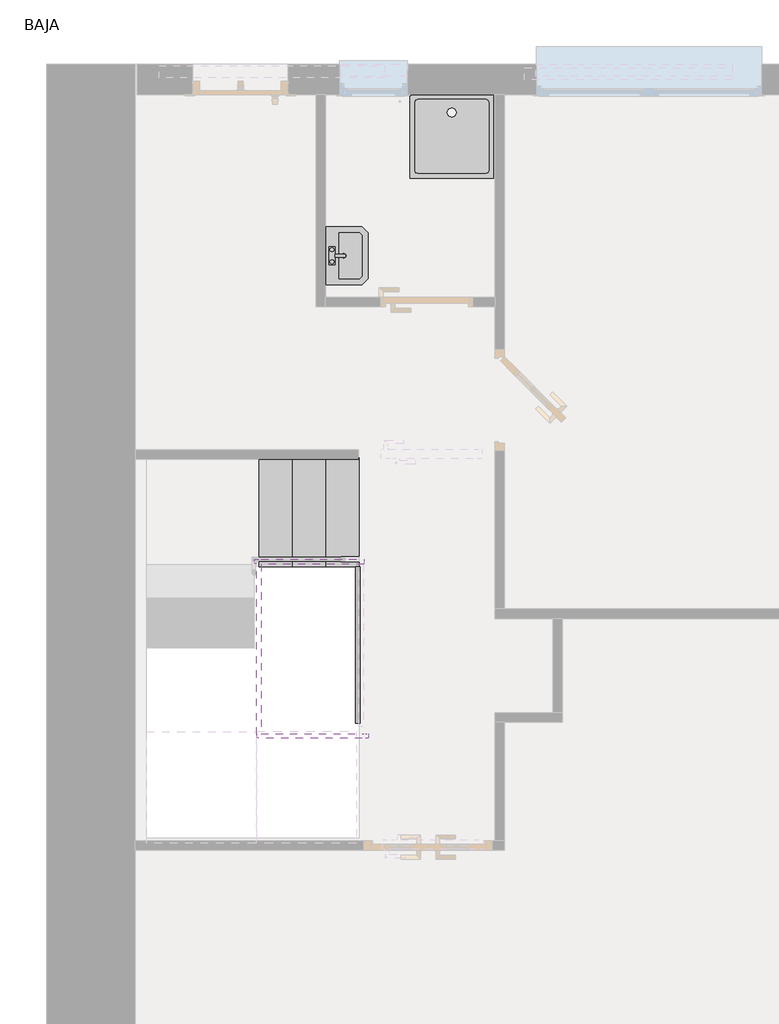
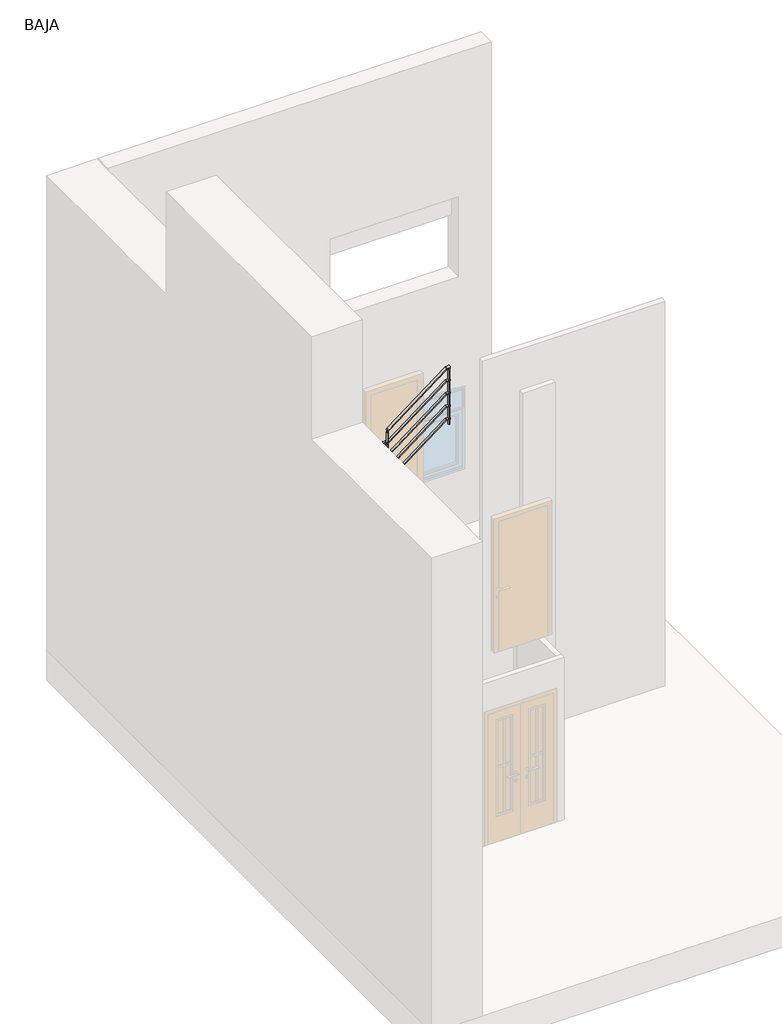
# One storey, part 3 of 3: 2 flow terminals, 2 railings, 1 stair flight.
"""IFC4 building model written with IfcOpenShell, lengths in millimetres."""

from ifc_helpers import new_model, si_unit, point, frame, frame_2d, origin, place, context, project, spatial, circle_curve, ellipse_curve, trimmed, segment, composite_curve, outline, extrude, faceted_brep, transform, mapped, element, save
from ifc_brep_helpers import plane_surface, cylinder_surface, advanced_brep
from components import flow_terminal_a7cef0fe, flow_terminal_700_x_700_mm_ef0395e3

model = new_model("IFC4")

# Units and contexts
model_context = context("Model", 3, world=origin())
ifc_project = project(units=[si_unit("LENGTHUNIT", "METRE", prefix="MILLI")], contexts=[model_context])

# Site, building, storey
site = spatial("IfcSite", under=ifc_project)
building = spatial("IfcBuilding", under=site)
storey = spatial("IfcBuildingStorey", under=building, Name="BAJA", Elevation=4000.0)

# Flow terminals
placement = place(None, origin())
flow_terminal_shape = flow_terminal_a7cef0fe(model_context)
element("IfcFlowTerminal", 1, ObjectType="M_Lavabo - Montado en muro : 485 mm x 355 mm - Privado", at=placement, inside=storey, context=model_context, shape_type="MappedRepresentation", body=[
    mapped(flow_terminal_shape, transform((-5363.6810782, -7863.2714291, 4865.0), x_axis=(0.0, 1.0, 0.0), y_axis=(0.0, 0.0, 1.0), z_axis=(1.0, 0.0, 0.0))),
])
flow_terminal_700_x_700_mm_shape = flow_terminal_700_x_700_mm_ef0395e3(model_context)
element("IfcFlowTerminal", 2, ObjectType="Cubeta de ducha - Desagüe axial : 700 x 700 mm", at=placement, inside=storey, context=model_context, shape_type="MappedRepresentation", body=[
    mapped(flow_terminal_700_x_700_mm_shape, transform((-4306.1811043, -6864.0945269, 4000.0), x_axis=(-1.0, 0.0, 0.0), y_axis=(0.0, -1.0, 0.0), z_axis=(0.0, 0.0, 1.0))),
])

# Railings
element("IfcRailing", 3, ObjectType="Tubería 900 mm", at=placement, inside=storey, context=model_context, shape_type="SweptSolid", body=[
    extrude(outline(composite_curve([segment(trimmed(circle_curve(frame_2d((4880.0, -5094.4380085)), 20.0), [point((4880.0, -5114.4380085))], [point((4880.0, -5074.4380085))], False, "CARTESIAN"), True, "CONTINUOUS"), segment(trimmed(circle_curve(frame_2d((4880.0, -5094.4380085)), 20.0), [point((4880.0, -5074.4380085))], [point((4880.0, -5114.4380085))], False, "CARTESIAN"), True, "CONTINUOUS")], self_intersect=False)), frame((0.0, -11778.334164, 0.0), z_axis=(0.0, 1.0, 0.0), x_axis=(0.0, 0.0, 1.0)), (0.0, 0.0, 1.0), 1312.5969331),
    extrude(outline(composite_curve([segment(trimmed(circle_curve(frame_2d((4685.0, -5094.4380085)), 15.0), [point((4685.0, -5079.4380085))], [point((4685.0, -5109.4380085))], False, "CARTESIAN"), True, "CONTINUOUS"), segment(trimmed(circle_curve(frame_2d((4685.0, -5094.4380085)), 15.0), [point((4685.0, -5109.4380085))], [point((4685.0, -5079.4380085))], False, "CARTESIAN"), True, "CONTINUOUS")], self_intersect=False)), frame((0.0, -11778.334164, 0.0), z_axis=(0.0, 1.0, 0.0), x_axis=(0.0, 0.0, 1.0)), (0.0, 0.0, 1.0), 1312.5969331),
    extrude(outline(composite_curve([segment(trimmed(circle_curve(frame_2d((4485.0, -5094.4380085)), 15.0), [point((4485.0, -5079.4380085))], [point((4485.0, -5109.4380085))], False, "CARTESIAN"), True, "CONTINUOUS"), segment(trimmed(circle_curve(frame_2d((4485.0, -5094.4380085)), 15.0), [point((4485.0, -5109.4380085))], [point((4485.0, -5079.4380085))], False, "CARTESIAN"), True, "CONTINUOUS")], self_intersect=False)), frame((0.0, -11778.334164, 0.0), z_axis=(0.0, 1.0, 0.0), x_axis=(0.0, 0.0, 1.0)), (0.0, 0.0, 1.0), 1312.5969331),
    extrude(outline(composite_curve([segment(trimmed(circle_curve(frame_2d((4285.0, -5094.4380085)), 15.0), [point((4285.0, -5079.4380085))], [point((4285.0, -5109.4380085))], False, "CARTESIAN"), True, "CONTINUOUS"), segment(trimmed(circle_curve(frame_2d((4285.0, -5094.4380085)), 15.0), [point((4285.0, -5109.4380085))], [point((4285.0, -5079.4380085))], False, "CARTESIAN"), True, "CONTINUOUS")], self_intersect=False)), frame((0.0, -11778.334164, 0.0), z_axis=(0.0, 1.0, 0.0), x_axis=(0.0, 0.0, 1.0)), (0.0, 0.0, 1.0), 1312.5969331),
    extrude(outline(composite_curve([segment(trimmed(circle_curve(frame_2d((4085.0, -5094.4380085)), 15.0), [point((4085.0, -5079.4380085))], [point((4085.0, -5109.4380085))], False, "CARTESIAN"), True, "CONTINUOUS"), segment(trimmed(circle_curve(frame_2d((4085.0, -5094.4380085)), 15.0), [point((4085.0, -5109.4380085))], [point((4085.0, -5079.4380085))], False, "CARTESIAN"), True, "CONTINUOUS")], self_intersect=False)), frame((0.0, -11778.334164, 0.0), z_axis=(0.0, 1.0, 0.0), x_axis=(0.0, 0.0, 1.0)), (0.0, 0.0, 1.0), 1312.5969331),
    extrude(outline(composite_curve([segment(trimmed(circle_curve(frame_2d((-5094.4380085, -11465.7372309)), 12.5), [point((-5081.9380085, -11465.7372309))], [point((-5106.9380085, -11465.7372309))], False, "CARTESIAN"), True, "CONTINUOUS"), segment(trimmed(circle_curve(frame_2d((-5094.4380085, -11465.7372309)), 12.5), [point((-5106.9380085, -11465.7372309))], [point((-5081.9380085, -11465.7372309))], False, "CARTESIAN"), True, "CONTINUOUS")], self_intersect=False)), frame((0.0, 0.0, 4000.0), z_axis=(0.0, 0.0, 1.0), x_axis=(1.0, 0.0, 0.0)), (0.0, 0.0, 1.0), 860.0),
    extrude(outline(composite_curve([segment(trimmed(circle_curve(frame_2d((-5094.4380085, -11765.834164)), 12.5), [point((-5081.9380085, -11765.834164))], [point((-5106.9380085, -11765.834164))], False, "CARTESIAN"), True, "CONTINUOUS"), segment(trimmed(circle_curve(frame_2d((-5094.4380085, -11765.834164)), 12.5), [point((-5106.9380085, -11765.834164))], [point((-5081.9380085, -11765.834164))], False, "CARTESIAN"), True, "CONTINUOUS")], self_intersect=False)), frame((0.0, 0.0, 4000.0), z_axis=(0.0, 0.0, 1.0), x_axis=(1.0, 0.0, 0.0)), (0.0, 0.0, 1.0), 860.0),
    extrude(outline(composite_curve([segment(trimmed(circle_curve(frame_2d((-5094.4380085, -10478.2372309)), 12.5), [point((-5081.9380085, -10478.2372309))], [point((-5106.9380085, -10478.2372309))], False, "CARTESIAN"), True, "CONTINUOUS"), segment(trimmed(circle_curve(frame_2d((-5094.4380085, -10478.2372309)), 12.5), [point((-5106.9380085, -10478.2372309))], [point((-5081.9380085, -10478.2372309))], False, "CARTESIAN"), True, "CONTINUOUS")], self_intersect=False)), frame((0.0, 0.0, 4000.0), z_axis=(0.0, 0.0, 1.0), x_axis=(1.0, 0.0, 0.0)), (0.0, 0.0, 1.0), 860.0),
])
element("IfcRailing", 4, ObjectType="Tubería 900 mm", at=placement, inside=storey, context=model_context, shape_type="SolidModel", body=[
    advanced_brep(
    [(-5042.9130424, -10404.2358592, 8087.9516089), (-5042.9130424, -10444.2358592, 8087.9516089), (-5902.4217865, -10404.2358592, 8745.738913), (-5902.4217865, -10444.2358592, 8745.738913), (-5944.8950445, -10404.2358592, 8943.5301894), (-5940.7116824, -10444.2358592, 8924.0489309)],
    [
        (0, 1, ellipse_curve(frame((-5042.9130424, -10424.2358592, 8087.9516089), z_axis=(1.0, 0.0, 0.0), x_axis=(0.0, 0.0, -1.0)), 25.1848642, 20.0)),
        (1, 0, ellipse_curve(frame((-5042.9130424, -10424.2358592, 8087.9516089), z_axis=(1.0, 0.0, 0.0), x_axis=(0.0, 0.0, -1.0)), 25.1848642, 20.0)),
        (0, 2),
        (2, 3, ellipse_curve(frame((-5902.4217865, -10424.2358592, 8745.738913), z_axis=(0.5350342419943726, 0.0, -0.8448303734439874), x_axis=(0.8448303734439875, 0.0, 0.5350342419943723)), 21.3144193, 20.0)),
        (3, 1),
        (3, 2, ellipse_curve(frame((-5902.4217865, -10424.2358592, 8745.738913), z_axis=(0.5350342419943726, 0.0, -0.8448303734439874), x_axis=(0.8448303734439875, 0.0, 0.5350342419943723)), 21.3144193, 20.0)),
        (4, 5, ellipse_curve(frame((-5942.8033634, -10424.2358592, 8933.7895602), z_axis=(-0.11757965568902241, -0.4447370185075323, 0.8879099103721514), x_axis=(0.23305102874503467, -0.8814996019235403, -0.4106649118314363)), 22.4012828, 20.0)),
        (5, 4, ellipse_curve(frame((-5942.8033634, -10424.2358592, 8933.7895602), z_axis=(-0.11757965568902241, -0.4447370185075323, 0.8879099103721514), x_axis=(0.23305102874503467, -0.8814996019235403, -0.4106649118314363)), 22.4012828, 20.0)),
        (2, 4),
        (5, 3),
    ],
    [
        plane_surface(frame((-5042.9130424, -10424.2358592, 8113.1364731), z_axis=(1.0, 0.0, 0.0), x_axis=(0.0, -1.0, 0.0))),
        cylinder_surface(frame((-5055.0680593, -10424.2358592, 8097.2539177), z_axis=(0.7941277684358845, 0.0, -0.6077508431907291), x_axis=(0.0, -1.0, 0.0)), 20.0),
        plane_surface(frame((-5922.9130424, -10424.2358592, 8936.4234953), z_axis=(-0.11757965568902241, -0.4447370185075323, 0.8879099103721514), x_axis=(0.9930634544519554, -0.052657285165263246, 0.10512937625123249))),
        cylinder_surface(frame((-5903.968953, -10424.2358592, 8752.9438242), z_axis=(0.2099516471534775, 0.0, -0.9777117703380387), x_axis=(0.0, -1.0, 0.0)), 20.0),
    ],
    [
        (0, [[1, 2]]),
        (1, [[-1, 3, 4, 5]]),
        (1, [[-2, -5, 6, -3]]),
        (2, [[7, 8]]),
        (3, [[-4, 9, -8, 10]]),
        (3, [[-6, -10, -7, -9]]),
    ],
),
    advanced_brep(
    [(-5942.9130424, -10442.0344992, 8924.8600393), (-5902.9130424, -10446.2178612, 8928.0615919), (-5942.9130424, -11869.9758253, 10017.6722787), (-5902.9130424, -11869.9758253, 10017.6722787)],
    [
        (0, 1, ellipse_curve(frame((-5922.9130424, -10444.1261802, 8926.4608156), z_axis=(0.11757965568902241, 0.4447370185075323, -0.8879099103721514), x_axis=(-0.23305102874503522, 0.8814996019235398, 0.4106649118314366)), 22.4012828, 20.0)),
        (1, 0, ellipse_curve(frame((-5922.9130424, -10444.1261802, 8926.4608156), z_axis=(0.11757965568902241, 0.4447370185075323, -0.8879099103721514), x_axis=(-0.23305102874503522, 0.8814996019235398, 0.4106649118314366)), 22.4012828, 20.0)),
        (2, 3, ellipse_curve(frame((-5922.9130424, -11869.9758253, 10017.6722787), z_axis=(0.0, -1.0, 0.0), x_axis=(0.0, 0.0, -1.0)), 25.1848642, 20.0)),
        (3, 2, ellipse_curve(frame((-5922.9130424, -11869.9758253, 10017.6722787), z_axis=(0.0, -1.0, 0.0), x_axis=(0.0, 0.0, -1.0)), 25.1848642, 20.0)),
        (0, 2),
        (3, 1),
    ],
    [
        plane_surface(frame((-5922.9130424, -10424.2358592, 8936.4234953), z_axis=(0.11757965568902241, 0.4447370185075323, -0.8879099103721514), x_axis=(0.9930634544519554, -0.052657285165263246, 0.10512937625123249))),
        plane_surface(frame((-5922.9130424, -11869.9758253, 10042.8571429), z_axis=(0.0, -1.0, 0.0), x_axis=(0.0, 0.0, -1.0))),
        cylinder_surface(frame((-5922.9130424, -10436.390876, 8920.5409399), z_axis=(0.0, 0.7941277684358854, -0.607750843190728), x_axis=(1.0, 0.0, 0.0)), 20.0),
    ],
    [
        (0, [[1, 2]]),
        (1, [[3, 4]]),
        (2, [[-1, 5, -4, 6]]),
        (2, [[-2, -6, -3, -5]]),
    ],
),
    advanced_brep(
    [(-5922.9130424, -11904.9758253, 10216.6518705), (-5922.9130424, -11864.9758253, 10216.6518705), (-5056.1381532, -11904.9758253, 10880.0), (-5056.1381532, -11864.9758253, 10880.0), (-5001.7727861, -11904.9758253, 10880.0), (-5001.7727861, -11864.9758253, 10880.0)],
    [
        (0, 1, ellipse_curve(frame((-5922.9130424, -11884.9758253, 10216.6518705), z_axis=(-1.0, 0.0, 0.0), x_axis=(0.0, 0.0, -1.0)), 25.1848642, 20.0)),
        (1, 0, ellipse_curve(frame((-5922.9130424, -11884.9758253, 10216.6518705), z_axis=(-1.0, 0.0, 0.0), x_axis=(0.0, 0.0, -1.0)), 25.1848642, 20.0)),
        (0, 2),
        (2, 3, ellipse_curve(frame((-5056.1381532, -11884.9758253, 10880.0), z_axis=(-0.9471345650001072, 0.0, -0.3208365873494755), x_axis=(0.32083658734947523, 0.0, -0.9471345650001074)), 21.1163236, 20.0)),
        (3, 1),
        (3, 2, ellipse_curve(frame((-5056.1381532, -11884.9758253, 10880.0), z_axis=(-0.9471345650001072, 0.0, -0.3208365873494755), x_axis=(0.32083658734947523, 0.0, -0.9471345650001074)), 21.1163236, 20.0)),
        (4, 5, circle_curve(frame((-5001.7727861, -11884.9758253, 10880.0), z_axis=(1.0, 0.0, 0.0), x_axis=(0.0, 1.0, 0.0)), 20.0)),
        (5, 4, circle_curve(frame((-5001.7727861, -11884.9758253, 10880.0), z_axis=(1.0, 0.0, 0.0), x_axis=(0.0, 1.0, 0.0)), 20.0)),
        (2, 4),
        (5, 3),
    ],
    [
        plane_surface(frame((-5922.9130424, -11884.9758253, 10241.8367347), z_axis=(-1.0, 0.0, 0.0), x_axis=(0.0, 1.0, 0.0))),
        cylinder_surface(frame((-5910.7580256, -11884.9758253, 10225.9541793), z_axis=(-0.7941277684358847, 0.0, -0.6077508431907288), x_axis=(0.0, 1.0, 0.0)), 20.0),
        plane_surface(frame((-5001.7727861, -11884.9758253, 10900.0), z_axis=(1.0, 0.0, 0.0), x_axis=(0.0, 1.0, 0.0))),
        cylinder_surface(frame((-5062.9130424, -11884.9758253, 10880.0), z_axis=(-1.0, 0.0, 0.0), x_axis=(0.0, 1.0, 0.0)), 20.0),
    ],
    [
        (0, [[1, 2]]),
        (1, [[-1, 3, 4, 5]]),
        (1, [[-2, -5, 6, -3]]),
        (2, [[7, 8]]),
        (3, [[-4, 9, -8, 10]]),
        (3, [[-6, -10, -7, -9]]),
    ],
),
    advanced_brep(
    [(-5001.7727861, -11899.9758253, 10685.0), (-5001.7727861, -11869.9758253, 10685.0), (-5057.8318755, -11899.9758253, 10685.0), (-5057.8318755, -11869.9758253, 10685.0), (-5937.9130424, -11899.9758253, 10011.4684947), (-5937.9130424, -11869.9758253, 10011.4684947)],
    [
        (0, 1, circle_curve(frame((-5001.7727861, -11884.9758253, 10685.0), z_axis=(1.0, 0.0, 0.0), x_axis=(0.0, 1.0, 0.0)), 15.0)),
        (1, 0, circle_curve(frame((-5001.7727861, -11884.9758253, 10685.0), z_axis=(1.0, 0.0, 0.0), x_axis=(0.0, 1.0, 0.0)), 15.0)),
        (0, 2),
        (2, 3, ellipse_curve(frame((-5057.8318755, -11884.9758253, 10685.0), z_axis=(0.9471345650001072, 0.0, 0.3208365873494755), x_axis=(0.3208365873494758, 0.0, -0.9471345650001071)), 15.8372427, 15.0)),
        (3, 1),
        (3, 2, ellipse_curve(frame((-5057.8318755, -11884.9758253, 10685.0), z_axis=(0.9471345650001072, 0.0, 0.3208365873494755), x_axis=(0.3208365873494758, 0.0, -0.9471345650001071)), 15.8372427, 15.0)),
        (4, 5, ellipse_curve(frame((-5937.9130424, -11884.9758253, 10011.4684947), z_axis=(-1.0, 0.0, 0.0), x_axis=(0.0, 0.0, 1.0)), 18.8886481, 15.0)),
        (5, 4, ellipse_curve(frame((-5937.9130424, -11884.9758253, 10011.4684947), z_axis=(-1.0, 0.0, 0.0), x_axis=(0.0, 0.0, 1.0)), 18.8886481, 15.0)),
        (2, 4),
        (5, 3),
    ],
    [
        plane_surface(frame((-5001.7727861, -11884.9758253, 10700.0), z_axis=(1.0, 0.0, 0.0), x_axis=(0.0, -1.0, 0.0))),
        cylinder_surface(frame((-5001.7727861, -11884.9758253, 10685.0), z_axis=(1.0, 0.0, 0.0), x_axis=(0.0, 1.0, 0.0)), 15.0),
        plane_surface(frame((-5937.9130424, -11884.9758253, 10030.3571429), z_axis=(-1.0, 0.0, 0.0), x_axis=(0.0, -1.0, 0.0))),
        cylinder_surface(frame((-5053.7967798, -11884.9758253, 10688.0880835), z_axis=(0.7941277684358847, 0.0, 0.6077508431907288), x_axis=(0.0, 1.0, 0.0)), 15.0),
    ],
    [
        (0, [[1, 2]]),
        (1, [[-1, 3, 4, 5]]),
        (1, [[-2, -5, 6, -3]]),
        (2, [[7, 8]]),
        (3, [[-4, 9, -8, 10]]),
        (3, [[-6, -10, -7, -9]]),
    ],
),
    advanced_brep(
    [(-5937.9130424, -11884.9758253, 9827.8571429), (-5907.9130424, -11884.9758253, 9827.8571429), (-5937.9130424, -11875.0569922, 9827.8571429), (-5907.9130424, -11875.0569922, 9827.8571429), (-5937.9130424, -10409.2358592, 8706.0552553), (-5907.9130424, -10409.2358592, 8706.0552553)],
    [
        (0, 1, circle_curve(frame((-5922.9130424, -11884.9758253, 9827.8571429), z_axis=(0.0, -1.0, 0.0), x_axis=(1.0, 0.0, 0.0)), 15.0)),
        (1, 0, circle_curve(frame((-5922.9130424, -11884.9758253, 9827.8571429), z_axis=(0.0, -1.0, 0.0), x_axis=(1.0, 0.0, 0.0)), 15.0)),
        (0, 2),
        (2, 3, ellipse_curve(frame((-5922.9130424, -11875.0569922, 9827.8571429), z_axis=(0.0, -0.9471345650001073, 0.320836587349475), x_axis=(0.0, -0.3208365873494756, -0.9471345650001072)), 15.8372427, 15.0)),
        (3, 1),
        (3, 2, ellipse_curve(frame((-5922.9130424, -11875.0569922, 9827.8571429), z_axis=(0.0, -0.9471345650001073, 0.320836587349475), x_axis=(0.0, -0.3208365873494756, -0.9471345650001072)), 15.8372427, 15.0)),
        (4, 5, ellipse_curve(frame((-5922.9130424, -10409.2358592, 8706.0552553), z_axis=(0.0, 1.0, 0.0), x_axis=(0.0, 0.0, 1.0)), 18.8886481, 15.0)),
        (5, 4, ellipse_curve(frame((-5922.9130424, -10409.2358592, 8706.0552553), z_axis=(0.0, 1.0, 0.0), x_axis=(0.0, 0.0, 1.0)), 18.8886481, 15.0)),
        (2, 4),
        (5, 3),
    ],
    [
        plane_surface(frame((-5922.9130424, -11884.9758253, 9842.8571429), z_axis=(0.0, -1.0, 0.0), x_axis=(0.0, 0.0, 1.0))),
        cylinder_surface(frame((-5922.9130424, -11884.9758253, 9827.8571429), z_axis=(0.0, -1.0, 0.0), x_axis=(1.0, 0.0, 0.0)), 15.0),
        plane_surface(frame((-5922.9130424, -10409.2358592, 8724.9439035), z_axis=(0.0, 1.0, 0.0), x_axis=(0.0, 0.0, 1.0))),
        cylinder_surface(frame((-5922.9130424, -11879.092088, 9830.9452263), z_axis=(0.0, -0.7941277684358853, 0.607750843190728), x_axis=(1.0, 0.0, 0.0)), 15.0),
    ],
    [
        (0, [[1, 2]]),
        (1, [[-1, 3, 4, 5]]),
        (1, [[-2, -5, 6, -3]]),
        (2, [[7, 8]]),
        (3, [[-4, 9, -8, 10]]),
        (3, [[-6, -10, -7, -9]]),
    ],
),
    advanced_brep(
    [(-5907.9130424, -10409.2358592, 8542.1428571), (-5907.9130424, -10439.2358592, 8542.1428571), (-5889.4958845, -10409.2358592, 8542.1428571), (-5889.4958845, -10439.2358592, 8542.1428571), (-5042.9130424, -10409.2358592, 7894.2478249), (-5042.9130424, -10439.2358592, 7894.2478249)],
    [
        (0, 1, circle_curve(frame((-5907.9130424, -10424.2358592, 8542.1428571), z_axis=(-1.0, 0.0, 0.0), x_axis=(0.0, -1.0, 0.0)), 15.0)),
        (1, 0, circle_curve(frame((-5907.9130424, -10424.2358592, 8542.1428571), z_axis=(-1.0, 0.0, 0.0), x_axis=(0.0, -1.0, 0.0)), 15.0)),
        (0, 2),
        (2, 3, ellipse_curve(frame((-5889.4958845, -10424.2358592, 8542.1428571), z_axis=(-0.9471345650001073, 0.0, 0.32083658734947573), x_axis=(-0.320836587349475, 0.0, -0.9471345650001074)), 15.8372427, 15.0)),
        (3, 1),
        (3, 2, ellipse_curve(frame((-5889.4958845, -10424.2358592, 8542.1428571), z_axis=(-0.9471345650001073, 0.0, 0.32083658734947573), x_axis=(-0.320836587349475, 0.0, -0.9471345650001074)), 15.8372427, 15.0)),
        (4, 5, ellipse_curve(frame((-5042.9130424, -10424.2358592, 7894.2478249), z_axis=(1.0, 0.0, 0.0), x_axis=(0.0, 0.0, 1.0)), 18.8886481, 15.0)),
        (5, 4, ellipse_curve(frame((-5042.9130424, -10424.2358592, 7894.2478249), z_axis=(1.0, 0.0, 0.0), x_axis=(0.0, 0.0, 1.0)), 18.8886481, 15.0)),
        (2, 4),
        (5, 3),
    ],
    [
        plane_surface(frame((-5907.9130424, -10424.2358592, 8557.1428571), z_axis=(-1.0, 0.0, 0.0), x_axis=(0.0, 1.0, 0.0))),
        cylinder_surface(frame((-5907.9130424, -10424.2358592, 8542.1428571), z_axis=(-1.0, 0.0, 0.0), x_axis=(0.0, -1.0, 0.0)), 15.0),
        plane_surface(frame((-5042.9130424, -10424.2358592, 7913.1364731), z_axis=(1.0, 0.0, 0.0), x_axis=(0.0, 1.0, 0.0))),
        cylinder_surface(frame((-5893.5309803, -10424.2358592, 8545.2309406), z_axis=(-0.7941277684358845, 0.0, 0.6077508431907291), x_axis=(0.0, -1.0, 0.0)), 15.0),
    ],
    [
        (0, [[1, 2]]),
        (1, [[-1, 3, 4, 5]]),
        (1, [[-2, -5, 6, -3]]),
        (2, [[7, 8]]),
        (3, [[-4, 9, -8, 10]]),
        (3, [[-6, -10, -7, -9]]),
    ],
),
    advanced_brep(
    [(-5001.7727861, -11899.9758253, 10485.0), (-5001.7727861, -11869.9758253, 10485.0), (-5057.8318755, -11899.9758253, 10485.0), (-5057.8318755, -11869.9758253, 10485.0), (-5937.9130424, -11899.9758253, 9811.4684947), (-5937.9130424, -11869.9758253, 9811.4684947)],
    [
        (0, 1, circle_curve(frame((-5001.7727861, -11884.9758253, 10485.0), z_axis=(1.0, 0.0, 0.0), x_axis=(0.0, 1.0, 0.0)), 15.0)),
        (1, 0, circle_curve(frame((-5001.7727861, -11884.9758253, 10485.0), z_axis=(1.0, 0.0, 0.0), x_axis=(0.0, 1.0, 0.0)), 15.0)),
        (0, 2),
        (2, 3, ellipse_curve(frame((-5057.8318755, -11884.9758253, 10485.0), z_axis=(0.9471345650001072, 0.0, 0.3208365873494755), x_axis=(0.3208365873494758, 0.0, -0.9471345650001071)), 15.8372427, 15.0)),
        (3, 1),
        (3, 2, ellipse_curve(frame((-5057.8318755, -11884.9758253, 10485.0), z_axis=(0.9471345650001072, 0.0, 0.3208365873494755), x_axis=(0.3208365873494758, 0.0, -0.9471345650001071)), 15.8372427, 15.0)),
        (4, 5, ellipse_curve(frame((-5937.9130424, -11884.9758253, 9811.4684947), z_axis=(-1.0, 0.0, 0.0), x_axis=(0.0, 0.0, 1.0)), 18.8886481, 15.0)),
        (5, 4, ellipse_curve(frame((-5937.9130424, -11884.9758253, 9811.4684947), z_axis=(-1.0, 0.0, 0.0), x_axis=(0.0, 0.0, 1.0)), 18.8886481, 15.0)),
        (2, 4),
        (5, 3),
    ],
    [
        plane_surface(frame((-5001.7727861, -11884.9758253, 10500.0), z_axis=(1.0, 0.0, 0.0), x_axis=(0.0, -1.0, 0.0))),
        cylinder_surface(frame((-5001.7727861, -11884.9758253, 10485.0), z_axis=(1.0, 0.0, 0.0), x_axis=(0.0, 1.0, 0.0)), 15.0),
        plane_surface(frame((-5937.9130424, -11884.9758253, 9830.3571429), z_axis=(-1.0, 0.0, 0.0), x_axis=(0.0, -1.0, 0.0))),
        cylinder_surface(frame((-5053.7967798, -11884.9758253, 10488.0880835), z_axis=(0.7941277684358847, 0.0, 0.6077508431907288), x_axis=(0.0, 1.0, 0.0)), 15.0),
    ],
    [
        (0, [[1, 2]]),
        (1, [[-1, 3, 4, 5]]),
        (1, [[-2, -5, 6, -3]]),
        (2, [[7, 8]]),
        (3, [[-4, 9, -8, 10]]),
        (3, [[-6, -10, -7, -9]]),
    ],
),
    advanced_brep(
    [(-5937.9130424, -11884.9758253, 9627.8571429), (-5907.9130424, -11884.9758253, 9627.8571429), (-5937.9130424, -11875.0569922, 9627.8571429), (-5907.9130424, -11875.0569922, 9627.8571429), (-5937.9130424, -10409.2358592, 8506.0552553), (-5907.9130424, -10409.2358592, 8506.0552553)],
    [
        (0, 1, circle_curve(frame((-5922.9130424, -11884.9758253, 9627.8571429), z_axis=(0.0, -1.0, 0.0), x_axis=(1.0, 0.0, 0.0)), 15.0)),
        (1, 0, circle_curve(frame((-5922.9130424, -11884.9758253, 9627.8571429), z_axis=(0.0, -1.0, 0.0), x_axis=(1.0, 0.0, 0.0)), 15.0)),
        (0, 2),
        (2, 3, ellipse_curve(frame((-5922.9130424, -11875.0569922, 9627.8571429), z_axis=(0.0, -0.9471345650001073, 0.320836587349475), x_axis=(0.0, -0.3208365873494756, -0.9471345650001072)), 15.8372427, 15.0)),
        (3, 1),
        (3, 2, ellipse_curve(frame((-5922.9130424, -11875.0569922, 9627.8571429), z_axis=(0.0, -0.9471345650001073, 0.320836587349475), x_axis=(0.0, -0.3208365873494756, -0.9471345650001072)), 15.8372427, 15.0)),
        (4, 5, ellipse_curve(frame((-5922.9130424, -10409.2358592, 8506.0552553), z_axis=(0.0, 1.0, 0.0), x_axis=(0.0, 0.0, 1.0)), 18.8886481, 15.0)),
        (5, 4, ellipse_curve(frame((-5922.9130424, -10409.2358592, 8506.0552553), z_axis=(0.0, 1.0, 0.0), x_axis=(0.0, 0.0, 1.0)), 18.8886481, 15.0)),
        (2, 4),
        (5, 3),
    ],
    [
        plane_surface(frame((-5922.9130424, -11884.9758253, 9642.8571429), z_axis=(0.0, -1.0, 0.0), x_axis=(0.0, 0.0, 1.0))),
        cylinder_surface(frame((-5922.9130424, -11884.9758253, 9627.8571429), z_axis=(0.0, -1.0, 0.0), x_axis=(1.0, 0.0, 0.0)), 15.0),
        plane_surface(frame((-5922.9130424, -10409.2358592, 8524.9439035), z_axis=(0.0, 1.0, 0.0), x_axis=(0.0, 0.0, 1.0))),
        cylinder_surface(frame((-5922.9130424, -11879.092088, 9630.9452263), z_axis=(0.0, -0.7941277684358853, 0.607750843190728), x_axis=(1.0, 0.0, 0.0)), 15.0),
    ],
    [
        (0, [[1, 2]]),
        (1, [[-1, 3, 4, 5]]),
        (1, [[-2, -5, 6, -3]]),
        (2, [[7, 8]]),
        (3, [[-4, 9, -8, 10]]),
        (3, [[-6, -10, -7, -9]]),
    ],
),
    advanced_brep(
    [(-5907.9130424, -10409.2358592, 8342.1428571), (-5907.9130424, -10439.2358592, 8342.1428571), (-5889.4958845, -10409.2358592, 8342.1428571), (-5889.4958845, -10439.2358592, 8342.1428571), (-5042.9130424, -10409.2358592, 7694.2478249), (-5042.9130424, -10439.2358592, 7694.2478249)],
    [
        (0, 1, circle_curve(frame((-5907.9130424, -10424.2358592, 8342.1428571), z_axis=(-1.0, 0.0, 0.0), x_axis=(0.0, -1.0, 0.0)), 15.0)),
        (1, 0, circle_curve(frame((-5907.9130424, -10424.2358592, 8342.1428571), z_axis=(-1.0, 0.0, 0.0), x_axis=(0.0, -1.0, 0.0)), 15.0)),
        (0, 2),
        (2, 3, ellipse_curve(frame((-5889.4958845, -10424.2358592, 8342.1428571), z_axis=(-0.9471345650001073, 0.0, 0.32083658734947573), x_axis=(-0.320836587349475, 0.0, -0.9471345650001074)), 15.8372427, 15.0)),
        (3, 1),
        (3, 2, ellipse_curve(frame((-5889.4958845, -10424.2358592, 8342.1428571), z_axis=(-0.9471345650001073, 0.0, 0.32083658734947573), x_axis=(-0.320836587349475, 0.0, -0.9471345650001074)), 15.8372427, 15.0)),
        (4, 5, ellipse_curve(frame((-5042.9130424, -10424.2358592, 7694.2478249), z_axis=(1.0, 0.0, 0.0), x_axis=(0.0, 0.0, 1.0)), 18.8886481, 15.0)),
        (5, 4, ellipse_curve(frame((-5042.9130424, -10424.2358592, 7694.2478249), z_axis=(1.0, 0.0, 0.0), x_axis=(0.0, 0.0, 1.0)), 18.8886481, 15.0)),
        (2, 4),
        (5, 3),
    ],
    [
        plane_surface(frame((-5907.9130424, -10424.2358592, 8357.1428571), z_axis=(-1.0, 0.0, 0.0), x_axis=(0.0, 1.0, 0.0))),
        cylinder_surface(frame((-5907.9130424, -10424.2358592, 8342.1428571), z_axis=(-1.0, 0.0, 0.0), x_axis=(0.0, -1.0, 0.0)), 15.0),
        plane_surface(frame((-5042.9130424, -10424.2358592, 7713.1364731), z_axis=(1.0, 0.0, 0.0), x_axis=(0.0, 1.0, 0.0))),
        cylinder_surface(frame((-5893.5309803, -10424.2358592, 8345.2309406), z_axis=(-0.7941277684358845, 0.0, 0.6077508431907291), x_axis=(0.0, -1.0, 0.0)), 15.0),
    ],
    [
        (0, [[1, 2]]),
        (1, [[-1, 3, 4, 5]]),
        (1, [[-2, -5, 6, -3]]),
        (2, [[7, 8]]),
        (3, [[-4, 9, -8, 10]]),
        (3, [[-6, -10, -7, -9]]),
    ],
),
    advanced_brep(
    [(-5001.7727861, -11899.9758253, 10285.0), (-5001.7727861, -11869.9758253, 10285.0), (-5057.8318755, -11899.9758253, 10285.0), (-5057.8318755, -11869.9758253, 10285.0), (-5937.9130424, -11899.9758253, 9611.4684947), (-5937.9130424, -11869.9758253, 9611.4684947)],
    [
        (0, 1, circle_curve(frame((-5001.7727861, -11884.9758253, 10285.0), z_axis=(1.0, 0.0, 0.0), x_axis=(0.0, 1.0, 0.0)), 15.0)),
        (1, 0, circle_curve(frame((-5001.7727861, -11884.9758253, 10285.0), z_axis=(1.0, 0.0, 0.0), x_axis=(0.0, 1.0, 0.0)), 15.0)),
        (0, 2),
        (2, 3, ellipse_curve(frame((-5057.8318755, -11884.9758253, 10285.0), z_axis=(0.9471345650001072, 0.0, 0.3208365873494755), x_axis=(0.3208365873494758, 0.0, -0.9471345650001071)), 15.8372427, 15.0)),
        (3, 1),
        (3, 2, ellipse_curve(frame((-5057.8318755, -11884.9758253, 10285.0), z_axis=(0.9471345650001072, 0.0, 0.3208365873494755), x_axis=(0.3208365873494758, 0.0, -0.9471345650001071)), 15.8372427, 15.0)),
        (4, 5, ellipse_curve(frame((-5937.9130424, -11884.9758253, 9611.4684947), z_axis=(-1.0, 0.0, 0.0), x_axis=(0.0, 0.0, 1.0)), 18.8886481, 15.0)),
        (5, 4, ellipse_curve(frame((-5937.9130424, -11884.9758253, 9611.4684947), z_axis=(-1.0, 0.0, 0.0), x_axis=(0.0, 0.0, 1.0)), 18.8886481, 15.0)),
        (2, 4),
        (5, 3),
    ],
    [
        plane_surface(frame((-5001.7727861, -11884.9758253, 10300.0), z_axis=(1.0, 0.0, 0.0), x_axis=(0.0, -1.0, 0.0))),
        cylinder_surface(frame((-5001.7727861, -11884.9758253, 10285.0), z_axis=(1.0, 0.0, 0.0), x_axis=(0.0, 1.0, 0.0)), 15.0),
        plane_surface(frame((-5937.9130424, -11884.9758253, 9630.3571429), z_axis=(-1.0, 0.0, 0.0), x_axis=(0.0, -1.0, 0.0))),
        cylinder_surface(frame((-5053.7967798, -11884.9758253, 10288.0880835), z_axis=(0.7941277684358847, 0.0, 0.6077508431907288), x_axis=(0.0, 1.0, 0.0)), 15.0),
    ],
    [
        (0, [[1, 2]]),
        (1, [[-1, 3, 4, 5]]),
        (1, [[-2, -5, 6, -3]]),
        (2, [[7, 8]]),
        (3, [[-4, 9, -8, 10]]),
        (3, [[-6, -10, -7, -9]]),
    ],
),
    advanced_brep(
    [(-5937.9130424, -11884.9758253, 9427.8571429), (-5907.9130424, -11884.9758253, 9427.8571429), (-5937.9130424, -11875.0569922, 9427.8571429), (-5907.9130424, -11875.0569922, 9427.8571429), (-5937.9130424, -10409.2358592, 8306.0552553), (-5907.9130424, -10409.2358592, 8306.0552553)],
    [
        (0, 1, circle_curve(frame((-5922.9130424, -11884.9758253, 9427.8571429), z_axis=(0.0, -1.0, 0.0), x_axis=(1.0, 0.0, 0.0)), 15.0)),
        (1, 0, circle_curve(frame((-5922.9130424, -11884.9758253, 9427.8571429), z_axis=(0.0, -1.0, 0.0), x_axis=(1.0, 0.0, 0.0)), 15.0)),
        (0, 2),
        (2, 3, ellipse_curve(frame((-5922.9130424, -11875.0569922, 9427.8571429), z_axis=(0.0, -0.9471345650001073, 0.320836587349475), x_axis=(0.0, -0.3208365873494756, -0.9471345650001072)), 15.8372427, 15.0)),
        (3, 1),
        (3, 2, ellipse_curve(frame((-5922.9130424, -11875.0569922, 9427.8571429), z_axis=(0.0, -0.9471345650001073, 0.320836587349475), x_axis=(0.0, -0.3208365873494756, -0.9471345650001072)), 15.8372427, 15.0)),
        (4, 5, ellipse_curve(frame((-5922.9130424, -10409.2358592, 8306.0552553), z_axis=(0.0, 1.0, 0.0), x_axis=(0.0, 0.0, 1.0)), 18.8886481, 15.0)),
        (5, 4, ellipse_curve(frame((-5922.9130424, -10409.2358592, 8306.0552553), z_axis=(0.0, 1.0, 0.0), x_axis=(0.0, 0.0, 1.0)), 18.8886481, 15.0)),
        (2, 4),
        (5, 3),
    ],
    [
        plane_surface(frame((-5922.9130424, -11884.9758253, 9442.8571429), z_axis=(0.0, -1.0, 0.0), x_axis=(0.0, 0.0, 1.0))),
        cylinder_surface(frame((-5922.9130424, -11884.9758253, 9427.8571429), z_axis=(0.0, -1.0, 0.0), x_axis=(1.0, 0.0, 0.0)), 15.0),
        plane_surface(frame((-5922.9130424, -10409.2358592, 8324.9439035), z_axis=(0.0, 1.0, 0.0), x_axis=(0.0, 0.0, 1.0))),
        cylinder_surface(frame((-5922.9130424, -11879.092088, 9430.9452263), z_axis=(0.0, -0.7941277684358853, 0.607750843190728), x_axis=(1.0, 0.0, 0.0)), 15.0),
    ],
    [
        (0, [[1, 2]]),
        (1, [[-1, 3, 4, 5]]),
        (1, [[-2, -5, 6, -3]]),
        (2, [[7, 8]]),
        (3, [[-4, 9, -8, 10]]),
        (3, [[-6, -10, -7, -9]]),
    ],
),
    advanced_brep(
    [(-5907.9130424, -10409.2358592, 8142.1428571), (-5907.9130424, -10439.2358592, 8142.1428571), (-5889.4958845, -10409.2358592, 8142.1428571), (-5889.4958845, -10439.2358592, 8142.1428571), (-5042.9130424, -10409.2358592, 7494.2478249), (-5042.9130424, -10439.2358592, 7494.2478249)],
    [
        (0, 1, circle_curve(frame((-5907.9130424, -10424.2358592, 8142.1428571), z_axis=(-1.0, 0.0, 0.0), x_axis=(0.0, -1.0, 0.0)), 15.0)),
        (1, 0, circle_curve(frame((-5907.9130424, -10424.2358592, 8142.1428571), z_axis=(-1.0, 0.0, 0.0), x_axis=(0.0, -1.0, 0.0)), 15.0)),
        (0, 2),
        (2, 3, ellipse_curve(frame((-5889.4958845, -10424.2358592, 8142.1428571), z_axis=(-0.9471345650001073, 0.0, 0.32083658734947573), x_axis=(-0.320836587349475, 0.0, -0.9471345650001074)), 15.8372427, 15.0)),
        (3, 1),
        (3, 2, ellipse_curve(frame((-5889.4958845, -10424.2358592, 8142.1428571), z_axis=(-0.9471345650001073, 0.0, 0.32083658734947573), x_axis=(-0.320836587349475, 0.0, -0.9471345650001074)), 15.8372427, 15.0)),
        (4, 5, ellipse_curve(frame((-5042.9130424, -10424.2358592, 7494.2478249), z_axis=(1.0, 0.0, 0.0), x_axis=(0.0, 0.0, 1.0)), 18.8886481, 15.0)),
        (5, 4, ellipse_curve(frame((-5042.9130424, -10424.2358592, 7494.2478249), z_axis=(1.0, 0.0, 0.0), x_axis=(0.0, 0.0, 1.0)), 18.8886481, 15.0)),
        (2, 4),
        (5, 3),
    ],
    [
        plane_surface(frame((-5907.9130424, -10424.2358592, 8157.1428571), z_axis=(-1.0, 0.0, 0.0), x_axis=(0.0, 1.0, 0.0))),
        cylinder_surface(frame((-5907.9130424, -10424.2358592, 8142.1428571), z_axis=(-1.0, 0.0, 0.0), x_axis=(0.0, -1.0, 0.0)), 15.0),
        plane_surface(frame((-5042.9130424, -10424.2358592, 7513.1364731), z_axis=(1.0, 0.0, 0.0), x_axis=(0.0, 1.0, 0.0))),
        cylinder_surface(frame((-5893.5309803, -10424.2358592, 8145.2309406), z_axis=(-0.7941277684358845, 0.0, 0.6077508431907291), x_axis=(0.0, -1.0, 0.0)), 15.0),
    ],
    [
        (0, [[1, 2]]),
        (1, [[-1, 3, 4, 5]]),
        (1, [[-2, -5, 6, -3]]),
        (2, [[7, 8]]),
        (3, [[-4, 9, -8, 10]]),
        (3, [[-6, -10, -7, -9]]),
    ],
),
    advanced_brep(
    [(-5001.7727861, -11899.9758253, 10085.0), (-5001.7727861, -11869.9758253, 10085.0), (-5057.8318755, -11899.9758253, 10085.0), (-5057.8318755, -11869.9758253, 10085.0), (-5937.9130424, -11899.9758253, 9411.4684947), (-5937.9130424, -11869.9758253, 9411.4684947)],
    [
        (0, 1, circle_curve(frame((-5001.7727861, -11884.9758253, 10085.0), z_axis=(1.0, 0.0, 0.0), x_axis=(0.0, 1.0, 0.0)), 15.0)),
        (1, 0, circle_curve(frame((-5001.7727861, -11884.9758253, 10085.0), z_axis=(1.0, 0.0, 0.0), x_axis=(0.0, 1.0, 0.0)), 15.0)),
        (0, 2),
        (2, 3, ellipse_curve(frame((-5057.8318755, -11884.9758253, 10085.0), z_axis=(0.9471345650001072, 0.0, 0.3208365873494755), x_axis=(0.3208365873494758, 0.0, -0.9471345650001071)), 15.8372427, 15.0)),
        (3, 1),
        (3, 2, ellipse_curve(frame((-5057.8318755, -11884.9758253, 10085.0), z_axis=(0.9471345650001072, 0.0, 0.3208365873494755), x_axis=(0.3208365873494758, 0.0, -0.9471345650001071)), 15.8372427, 15.0)),
        (4, 5, ellipse_curve(frame((-5937.9130424, -11884.9758253, 9411.4684947), z_axis=(-1.0, 0.0, 0.0), x_axis=(0.0, 0.0, 1.0)), 18.8886481, 15.0)),
        (5, 4, ellipse_curve(frame((-5937.9130424, -11884.9758253, 9411.4684947), z_axis=(-1.0, 0.0, 0.0), x_axis=(0.0, 0.0, 1.0)), 18.8886481, 15.0)),
        (2, 4),
        (5, 3),
    ],
    [
        plane_surface(frame((-5001.7727861, -11884.9758253, 10100.0), z_axis=(1.0, 0.0, 0.0), x_axis=(0.0, -1.0, 0.0))),
        cylinder_surface(frame((-5001.7727861, -11884.9758253, 10085.0), z_axis=(1.0, 0.0, 0.0), x_axis=(0.0, 1.0, 0.0)), 15.0),
        plane_surface(frame((-5937.9130424, -11884.9758253, 9430.3571429), z_axis=(-1.0, 0.0, 0.0), x_axis=(0.0, -1.0, 0.0))),
        cylinder_surface(frame((-5053.7967798, -11884.9758253, 10088.0880835), z_axis=(0.7941277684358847, 0.0, 0.6077508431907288), x_axis=(0.0, 1.0, 0.0)), 15.0),
    ],
    [
        (0, [[1, 2]]),
        (1, [[-1, 3, 4, 5]]),
        (1, [[-2, -5, 6, -3]]),
        (2, [[7, 8]]),
        (3, [[-4, 9, -8, 10]]),
        (3, [[-6, -10, -7, -9]]),
    ],
),
    advanced_brep(
    [(-5937.9130424, -11884.9758253, 9227.8571429), (-5907.9130424, -11884.9758253, 9227.8571429), (-5937.9130424, -11875.0569922, 9227.8571429), (-5907.9130424, -11875.0569922, 9227.8571429), (-5937.9130424, -10409.2358592, 8106.0552553), (-5907.9130424, -10409.2358592, 8106.0552553)],
    [
        (0, 1, circle_curve(frame((-5922.9130424, -11884.9758253, 9227.8571429), z_axis=(0.0, -1.0, 0.0), x_axis=(1.0, 0.0, 0.0)), 15.0)),
        (1, 0, circle_curve(frame((-5922.9130424, -11884.9758253, 9227.8571429), z_axis=(0.0, -1.0, 0.0), x_axis=(1.0, 0.0, 0.0)), 15.0)),
        (0, 2),
        (2, 3, ellipse_curve(frame((-5922.9130424, -11875.0569922, 9227.8571429), z_axis=(0.0, -0.9471345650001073, 0.320836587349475), x_axis=(0.0, -0.3208365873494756, -0.9471345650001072)), 15.8372427, 15.0)),
        (3, 1),
        (3, 2, ellipse_curve(frame((-5922.9130424, -11875.0569922, 9227.8571429), z_axis=(0.0, -0.9471345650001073, 0.320836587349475), x_axis=(0.0, -0.3208365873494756, -0.9471345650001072)), 15.8372427, 15.0)),
        (4, 5, ellipse_curve(frame((-5922.9130424, -10409.2358592, 8106.0552553), z_axis=(0.0, 1.0, 0.0), x_axis=(0.0, 0.0, 1.0)), 18.8886481, 15.0)),
        (5, 4, ellipse_curve(frame((-5922.9130424, -10409.2358592, 8106.0552553), z_axis=(0.0, 1.0, 0.0), x_axis=(0.0, 0.0, 1.0)), 18.8886481, 15.0)),
        (2, 4),
        (5, 3),
    ],
    [
        plane_surface(frame((-5922.9130424, -11884.9758253, 9242.8571429), z_axis=(0.0, -1.0, 0.0), x_axis=(0.0, 0.0, 1.0))),
        cylinder_surface(frame((-5922.9130424, -11884.9758253, 9227.8571429), z_axis=(0.0, -1.0, 0.0), x_axis=(1.0, 0.0, 0.0)), 15.0),
        plane_surface(frame((-5922.9130424, -10409.2358592, 8124.9439035), z_axis=(0.0, 1.0, 0.0), x_axis=(0.0, 0.0, 1.0))),
        cylinder_surface(frame((-5922.9130424, -11879.092088, 9230.9452263), z_axis=(0.0, -0.7941277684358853, 0.607750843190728), x_axis=(1.0, 0.0, 0.0)), 15.0),
    ],
    [
        (0, [[1, 2]]),
        (1, [[-1, 3, 4, 5]]),
        (1, [[-2, -5, 6, -3]]),
        (2, [[7, 8]]),
        (3, [[-4, 9, -8, 10]]),
        (3, [[-6, -10, -7, -9]]),
    ],
),
    advanced_brep(
    [(-5907.9130424, -10409.2358592, 7942.1428571), (-5907.9130424, -10439.2358592, 7942.1428571), (-5889.4958845, -10409.2358592, 7942.1428571), (-5889.4958845, -10439.2358592, 7942.1428571), (-5042.9130424, -10409.2358592, 7294.2478249), (-5042.9130424, -10439.2358592, 7294.2478249)],
    [
        (0, 1, circle_curve(frame((-5907.9130424, -10424.2358592, 7942.1428571), z_axis=(-1.0, 0.0, 0.0), x_axis=(0.0, -1.0, 0.0)), 15.0)),
        (1, 0, circle_curve(frame((-5907.9130424, -10424.2358592, 7942.1428571), z_axis=(-1.0, 0.0, 0.0), x_axis=(0.0, -1.0, 0.0)), 15.0)),
        (0, 2),
        (2, 3, ellipse_curve(frame((-5889.4958845, -10424.2358592, 7942.1428571), z_axis=(-0.9471345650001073, 0.0, 0.32083658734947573), x_axis=(-0.320836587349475, 0.0, -0.9471345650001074)), 15.8372427, 15.0)),
        (3, 1),
        (3, 2, ellipse_curve(frame((-5889.4958845, -10424.2358592, 7942.1428571), z_axis=(-0.9471345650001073, 0.0, 0.32083658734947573), x_axis=(-0.320836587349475, 0.0, -0.9471345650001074)), 15.8372427, 15.0)),
        (4, 5, ellipse_curve(frame((-5042.9130424, -10424.2358592, 7294.2478249), z_axis=(1.0, 0.0, 0.0), x_axis=(0.0, 0.0, 1.0)), 18.8886481, 15.0)),
        (5, 4, ellipse_curve(frame((-5042.9130424, -10424.2358592, 7294.2478249), z_axis=(1.0, 0.0, 0.0), x_axis=(0.0, 0.0, 1.0)), 18.8886481, 15.0)),
        (2, 4),
        (5, 3),
    ],
    [
        plane_surface(frame((-5907.9130424, -10424.2358592, 7957.1428571), z_axis=(-1.0, 0.0, 0.0), x_axis=(0.0, 1.0, 0.0))),
        cylinder_surface(frame((-5907.9130424, -10424.2358592, 7942.1428571), z_axis=(-1.0, 0.0, 0.0), x_axis=(0.0, -1.0, 0.0)), 15.0),
        plane_surface(frame((-5042.9130424, -10424.2358592, 7313.1364731), z_axis=(1.0, 0.0, 0.0), x_axis=(0.0, 1.0, 0.0))),
        cylinder_surface(frame((-5893.5309803, -10424.2358592, 7945.2309406), z_axis=(-0.7941277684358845, 0.0, 0.6077508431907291), x_axis=(0.0, -1.0, 0.0)), 15.0),
    ],
    [
        (0, [[1, 2]]),
        (1, [[-1, 3, 4, 5]]),
        (1, [[-2, -5, 6, -3]]),
        (2, [[7, 8]]),
        (3, [[-4, 9, -8, 10]]),
        (3, [[-6, -10, -7, -9]]),
    ],
),
    advanced_brep(
    [(-5910.4130424, -10884.9758253, 9238.6608839), (-5910.4130424, -10884.9758253, 8285.7142857), (-5935.4130424, -10884.9758253, 8285.7142857), (-5935.4130424, -10884.9758253, 9238.6608839)],
    [
        (0, 1),
        (1, 2, circle_curve(frame((-5922.9130424, -10884.9758253, 8285.7142857), z_axis=(0.0, 0.0, 1.0), x_axis=(-1.0, 0.0, 0.0)), 12.5)),
        (2, 3),
        (3, 0, ellipse_curve(frame((-5922.9130424, -10884.9758253, 9238.6608839), z_axis=(0.0, -0.6077508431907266, -0.7941277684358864), x_axis=(0.0, -0.7941277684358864, 0.6077508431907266)), 15.7405401, 12.5)),
        (0, 3, ellipse_curve(frame((-5922.9130424, -10884.9758253, 9238.6608839), z_axis=(0.0, -0.6077508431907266, -0.7941277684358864), x_axis=(0.0, -0.7941277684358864, 0.6077508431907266)), 15.7405401, 12.5)),
        (2, 1, circle_curve(frame((-5922.9130424, -10884.9758253, 8285.7142857), z_axis=(0.0, 0.0, 1.0), x_axis=(-1.0, 0.0, 0.0)), 12.5)),
    ],
    [
        cylinder_surface(frame((-5922.9130424, -10884.9758253, 8185.7142857), z_axis=(0.0, 0.0, 1.0), x_axis=(-1.0, 0.0, 0.0)), 12.5),
        plane_surface(frame((-5947.9130424, -10859.9758253, 9219.5282308), z_axis=(0.0, 0.6077508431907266, 0.7941277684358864), x_axis=(1.0, 0.0, 0.0))),
        plane_surface(frame((-5947.9130424, -10909.9758253, 8285.7142857), z_axis=(0.0, 0.0, -1.0), x_axis=(1.0, 0.0, 0.0))),
    ],
    [
        (0, [[1, 2, 3, 4]]),
        (0, [[-1, 5, -3, 6]]),
        (1, [[-4, -5]]),
        (2, [[-2, -6]]),
    ],
),
    advanced_brep(
    [(-5910.4130424, -10424.2358592, 8886.0537669), (-5910.4130424, -10424.2358592, 7857.1428571), (-5935.4130424, -10424.2358592, 7857.1428571), (-5935.4130424, -10424.2358592, 8886.0537669)],
    [
        (0, 1),
        (1, 2, circle_curve(frame((-5922.9130424, -10424.2358592, 7857.1428571), z_axis=(0.0, 0.0, 1.0), x_axis=(-1.0, 0.0, 0.0)), 12.5)),
        (2, 3),
        (3, 0, ellipse_curve(frame((-5922.9130424, -10424.2358592, 8886.0537669), z_axis=(0.0, -0.6077508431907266, -0.7941277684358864), x_axis=(0.0, -0.7941277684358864, 0.6077508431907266)), 15.7405401, 12.5)),
        (0, 3, ellipse_curve(frame((-5922.9130424, -10424.2358592, 8886.0537669), z_axis=(0.0, -0.6077508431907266, -0.7941277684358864), x_axis=(0.0, -0.7941277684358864, 0.6077508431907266)), 15.7405401, 12.5)),
        (2, 1, circle_curve(frame((-5922.9130424, -10424.2358592, 7857.1428571), z_axis=(0.0, 0.0, 1.0), x_axis=(-1.0, 0.0, 0.0)), 12.5)),
    ],
    [
        cylinder_surface(frame((-5922.9130424, -10424.2358592, 7757.1428571), z_axis=(0.0, 0.0, 1.0), x_axis=(-1.0, 0.0, 0.0)), 12.5),
        plane_surface(frame((-5947.9130424, -10399.2358592, 8866.9211139), z_axis=(0.0, 0.6077508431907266, 0.7941277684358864), x_axis=(1.0, 0.0, 0.0))),
        plane_surface(frame((-5947.9130424, -10449.2358592, 7857.1428571), z_axis=(0.0, 0.0, -1.0), x_axis=(1.0, 0.0, 0.0))),
    ],
    [
        (0, [[1, 2, 3, 4]]),
        (0, [[-1, 5, -3, 6]]),
        (1, [[-4, -5]]),
        (2, [[-2, -6]]),
    ],
),
    advanced_brep(
    [(-5922.9130424, -11872.4758253, 10191.4670063), (-5922.9130424, -11872.4758253, 9142.8571429), (-5922.9130424, -11897.4758253, 9142.8571429), (-5922.9130424, -11897.4758253, 10191.4670063)],
    [
        (0, 1),
        (1, 2, circle_curve(frame((-5922.9130424, -11884.9758253, 9142.8571429), z_axis=(0.0, 0.0, 1.0), x_axis=(0.0, -1.0, 0.0)), 12.5)),
        (2, 3),
        (3, 0, ellipse_curve(frame((-5922.9130424, -11884.9758253, 10191.4670063), z_axis=(0.6077508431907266, 0.0, -0.7941277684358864), x_axis=(0.7941277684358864, 0.0, 0.6077508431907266)), 15.7405401, 12.5)),
        (0, 3, ellipse_curve(frame((-5922.9130424, -11884.9758253, 10191.4670063), z_axis=(0.6077508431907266, 0.0, -0.7941277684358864), x_axis=(0.7941277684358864, 0.0, 0.6077508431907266)), 15.7405401, 12.5)),
        (2, 1, circle_curve(frame((-5922.9130424, -11884.9758253, 9142.8571429), z_axis=(0.0, 0.0, 1.0), x_axis=(0.0, -1.0, 0.0)), 12.5)),
    ],
    [
        cylinder_surface(frame((-5922.9130424, -11884.9758253, 9042.8571429), z_axis=(0.0, 0.0, 1.0), x_axis=(0.0, -1.0, 0.0)), 12.5),
        plane_surface(frame((-5947.9130424, -11909.9758253, 10172.3343532), z_axis=(-0.6077508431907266, 0.0, 0.7941277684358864), x_axis=(0.0, 1.0, 0.0))),
        plane_surface(frame((-5897.9130424, -11909.9758253, 9142.8571429), z_axis=(0.0, 0.0, -1.0), x_axis=(0.0, 1.0, 0.0))),
    ],
    [
        (0, [[1, 2, 3, 4]]),
        (0, [[-1, 5, -3, 6]]),
        (1, [[-4, -5]]),
        (2, [[-2, -6]]),
    ],
),
    advanced_brep(
    [(-5055.4130424, -10436.7358592, 8072.3330712), (-5055.4130424, -10436.7358592, 7214.2857143), (-5055.4130424, -10411.7358592, 7214.2857143), (-5055.4130424, -10411.7358592, 8072.3330712)],
    [
        (0, 1),
        (1, 2, circle_curve(frame((-5055.4130424, -10424.2358592, 7214.2857143), z_axis=(0.0, 0.0, 1.0), x_axis=(0.0, 1.0, 0.0)), 12.5)),
        (2, 3),
        (3, 0, ellipse_curve(frame((-5055.4130424, -10424.2358592, 8072.3330712), z_axis=(-0.6077508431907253, 0.0, -0.7941277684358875), x_axis=(-0.7941277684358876, 0.0, 0.607750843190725)), 15.7405401, 12.5)),
        (0, 3, ellipse_curve(frame((-5055.4130424, -10424.2358592, 8072.3330712), z_axis=(-0.6077508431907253, 0.0, -0.7941277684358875), x_axis=(-0.7941277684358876, 0.0, 0.607750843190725)), 15.7405401, 12.5)),
        (2, 1, circle_curve(frame((-5055.4130424, -10424.2358592, 7214.2857143), z_axis=(0.0, 0.0, 1.0), x_axis=(0.0, 1.0, 0.0)), 12.5)),
    ],
    [
        cylinder_surface(frame((-5055.4130424, -10424.2358592, 7114.2857143), z_axis=(0.0, 0.0, 1.0), x_axis=(0.0, 1.0, 0.0)), 12.5),
        plane_surface(frame((-5030.4130424, -10399.2358592, 8053.2004181), z_axis=(0.6077508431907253, 0.0, 0.7941277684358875), x_axis=(0.0, -1.0, 0.0))),
        plane_surface(frame((-5080.4130424, -10399.2358592, 7214.2857143), z_axis=(0.0, 0.0, -1.0), x_axis=(0.0, -1.0, 0.0))),
    ],
    [
        (0, [[1, 2, 3, 4]]),
        (0, [[-1, 5, -3, 6]]),
        (1, [[-4, -5]]),
        (2, [[-2, -6]]),
    ],
),
    extrude(outline(composite_curve([segment(trimmed(circle_curve(frame_2d((-5014.2727861, -11884.9758253)), 12.5), [point((-5014.2727861, -11897.4758253))], [point((-5014.2727861, -11872.4758253))], False, "CARTESIAN"), True, "CONTINUOUS"), segment(trimmed(circle_curve(frame_2d((-5014.2727861, -11884.9758253)), 12.5), [point((-5014.2727861, -11872.4758253))], [point((-5014.2727861, -11897.4758253))], False, "CARTESIAN"), True, "CONTINUOUS")], self_intersect=False)), frame((0.0, 0.0, 10000.0), z_axis=(0.0, 0.0, 1.0), x_axis=(1.0, 0.0, 0.0)), (0.0, 0.0, 1.0), 860.0),
])

# Stair flight
element("IfcStairFlight", 5, ObjectType="Profundidad estructural 150 mm", at=placement, inside=storey, context=model_context, shape_type="Brep", body=[
    faceted_brep([(-5364.4147176, -10465.7372309, 4214.2857143), (-5084.4147176, -10465.7372309, 4214.2857143), (-5084.4147176, -9554.9701632, 4214.2857143), (-5364.4147176, -9554.9701632, 4214.2857143), (-5364.4147176, -10465.7372309, 4025.3992328), (-5331.2263867, -10465.7372309, 4000.0), (-5084.4147176, -10465.7372309, 4000.0), (-5084.4147176, -9554.9701632, 4000.0), (-5331.2263867, -9554.9701632, 4000.0), (-5364.4147176, -9554.9701632, 4025.3992328), (-5644.4147176, -10465.7372309, 4428.5714286), (-5364.4147176, -10465.7372309, 4428.5714286), (-5364.4147176, -9554.9701632, 4428.5714286), (-5644.4147176, -9554.9701632, 4428.5714286), (-5644.4147176, -10465.7372309, 4239.6849471), (-5644.4147176, -9554.9701632, 4239.6849471), (-5924.4147176, -10465.7372309, 4642.8571429), (-5644.4147176, -10465.7372309, 4642.8571429), (-5644.4147176, -9554.9701632, 4642.8571429), (-5924.4147176, -9554.9701632, 4642.8571429), (-5924.4147176, -10465.7372309, 4453.9706614), (-5924.4147176, -9554.9701632, 4453.9706614)], [[[0, 1, 2, 3]], [[1, 0, 4, 5, 6]], [[2, 1, 6, 7]], [[3, 2, 7, 8, 9]], [[10, 11, 12, 13]], [[11, 10, 14, 4, 0]], [[0, 3, 12, 11]], [[13, 12, 3, 9, 15]], [[16, 17, 18, 19]], [[17, 16, 20, 14, 10]], [[10, 13, 18, 17]], [[19, 18, 13, 15, 21]], [[16, 19, 21, 20]], [[7, 6, 5, 8]], [[8, 5, 4, 14, 20, 21, 15, 9]]]),
])

save(model, "model.ifc")
